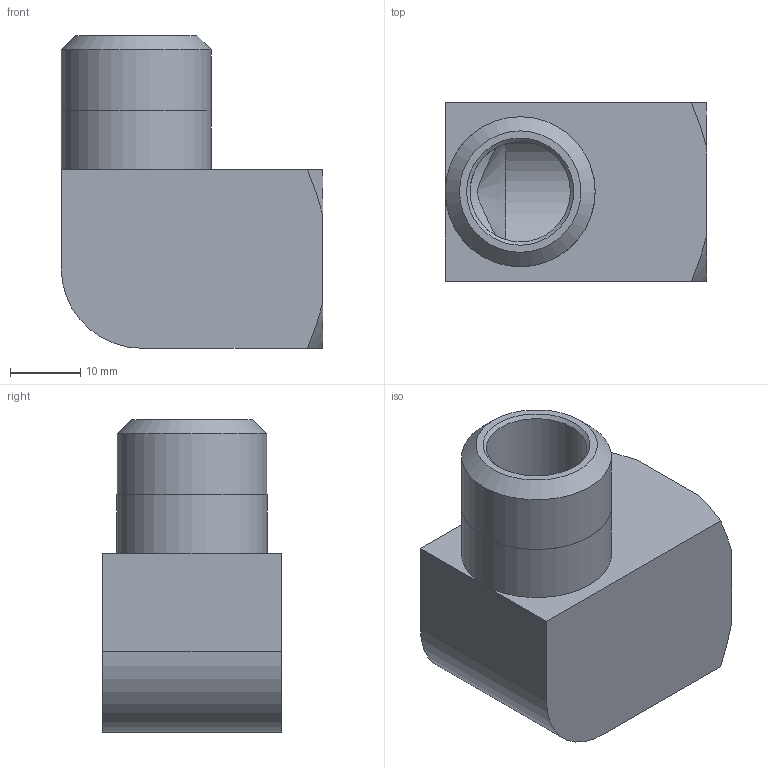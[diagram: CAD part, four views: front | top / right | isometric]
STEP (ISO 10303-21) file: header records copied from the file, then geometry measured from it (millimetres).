
FILE_DESCRIPTION(/* description */ (''),/* implementation_level */ '2;1');
FILE_NAME(/* name */ 'C:/Users/drich/Desktop/SL-50 v2.step',/* time_stamp */ '2020-02-09T11:07:14-06:00',/* author */ (''),/* organization */ (''),/* preprocessor_version */ 'ST-DEVELOPER v18',/* originating_system */ 'Autodesk Translation Framework v8.12.0.6',/* authorisation */ '');
FILE_SCHEMA (('AUTOMOTIVE_DESIGN { 1 0 10303 214 3 1 1 }'));
Length unit declared in the file: inch
Products named in the file (1): SL-50
Bounding box: 37.21 x 25.4 x 44.45 mm (x, y, z)
Volume: 18280 mm3; surface area: 8437.9 mm2
Topology: 1 solids, 1 shells, 25 faces, 66 edges, 44 vertices
Faces by surface type: cone 10, plane 9, cylinder 6
Full cylindrical faces by diameter (mm): 14.275 x1, 17.755 x1, 17.78 x1, 21.311 x1, 21.336 x1
Entity records: 912 total; most frequent: CARTESIAN_POINT 261, ORIENTED_EDGE 130, DIRECTION 126, EDGE_CURVE 65, AXIS2_PLACEMENT_3D 51, VERTEX_POINT 44, EDGE_LOOP 29, FACE_OUTER_BOUND 25
